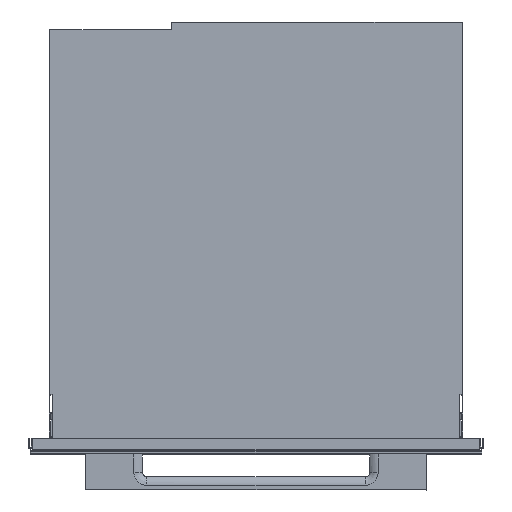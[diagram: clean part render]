
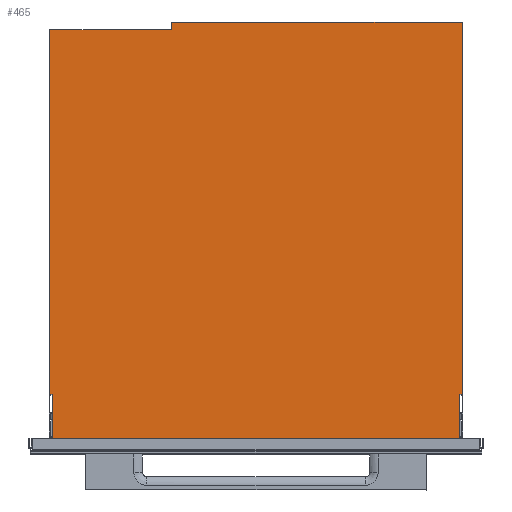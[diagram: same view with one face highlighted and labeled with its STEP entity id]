
A CAD part, top view. The second image highlights one B-rep face of the part: STEP entity #465.
In plain terms, the highlighted planar face has unit normal (0, 0, 1).
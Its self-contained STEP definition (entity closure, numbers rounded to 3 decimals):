
#465=ADVANCED_FACE('',(#797),#5106,.T.);
#797=FACE_OUTER_BOUND('',#1136,.T.);
#1136=EDGE_LOOP('',(#2631,#2632,#2633,#2634,#2635,#2636,#2637,#2638,#2639,
#2640));
#2631=ORIENTED_EDGE('',*,*,#3471,.T.);
#2632=ORIENTED_EDGE('',*,*,#3472,.T.);
#2633=ORIENTED_EDGE('',*,*,#3473,.T.);
#2634=ORIENTED_EDGE('',*,*,#3474,.T.);
#2635=ORIENTED_EDGE('',*,*,#3475,.T.);
#2636=ORIENTED_EDGE('',*,*,#3476,.T.);
#2637=ORIENTED_EDGE('',*,*,#3477,.T.);
#2638=ORIENTED_EDGE('',*,*,#3478,.T.);
#2639=ORIENTED_EDGE('',*,*,#3479,.T.);
#2640=ORIENTED_EDGE('',*,*,#3480,.T.);
#3471=EDGE_CURVE('',#4759,#4760,#4260,.T.);
#3472=EDGE_CURVE('',#4760,#4761,#4261,.T.);
#3473=EDGE_CURVE('',#4761,#4762,#4262,.T.);
#3474=EDGE_CURVE('',#4762,#4763,#4263,.T.);
#3475=EDGE_CURVE('',#4763,#4764,#4264,.T.);
#3476=EDGE_CURVE('',#4764,#4765,#4265,.T.);
#3477=EDGE_CURVE('',#4765,#4766,#4266,.T.);
#3478=EDGE_CURVE('',#4766,#4767,#4267,.T.);
#3479=EDGE_CURVE('',#4767,#4768,#4268,.T.);
#3480=EDGE_CURVE('',#4768,#4759,#4269,.T.);
#4260=B_SPLINE_CURVE_WITH_KNOTS('',1,(#13507,#13508),.UNSPECIFIED.,.F.,
 .F.,(2,2),(-160.,0.),.UNSPECIFIED.);
#4261=B_SPLINE_CURVE_WITH_KNOTS('',1,(#13509,#13510),.UNSPECIFIED.,.F.,
 .F.,(2,2),(-479.5,0.),.UNSPECIFIED.);
#4262=B_SPLINE_CURVE_WITH_KNOTS('',1,(#13511,#13512),.UNSPECIFIED.,.F.,
 .F.,(2,2),(-3.,0.),.UNSPECIFIED.);
#4263=B_SPLINE_CURVE_WITH_KNOTS('',1,(#13513,#13514),.UNSPECIFIED.,.F.,
 .F.,(2,2),(0.,58.),.UNSPECIFIED.);
#4264=B_SPLINE_CURVE_WITH_KNOTS('',1,(#13515,#13516),.UNSPECIFIED.,.F.,
 .F.,(2,2),(0.,536.),.UNSPECIFIED.);
#4265=B_SPLINE_CURVE_WITH_KNOTS('',1,(#13517,#13518),.UNSPECIFIED.,.F.,
 .F.,(2,2),(-58.,0.),.UNSPECIFIED.);
#4266=B_SPLINE_CURVE_WITH_KNOTS('',1,(#13519,#13520),.UNSPECIFIED.,.F.,
 .F.,(2,2),(0.,3.),.UNSPECIFIED.);
#4267=B_SPLINE_CURVE_WITH_KNOTS('',1,(#13521,#13522),.UNSPECIFIED.,.F.,
 .F.,(2,2),(0.,489.5),.UNSPECIFIED.);
#4268=B_SPLINE_CURVE_WITH_KNOTS('',1,(#13523,#13524),.UNSPECIFIED.,.F.,
 .F.,(2,2),(-382.,0.),.UNSPECIFIED.);
#4269=B_SPLINE_CURVE_WITH_KNOTS('',1,(#13525,#13526),.UNSPECIFIED.,.F.,
 .F.,(2,2),(-10.,0.),.UNSPECIFIED.);
#4759=VERTEX_POINT('',#13473);
#4760=VERTEX_POINT('',#13474);
#4761=VERTEX_POINT('',#13475);
#4762=VERTEX_POINT('',#13476);
#4763=VERTEX_POINT('',#13477);
#4764=VERTEX_POINT('',#13478);
#4765=VERTEX_POINT('',#13479);
#4766=VERTEX_POINT('',#13480);
#4767=VERTEX_POINT('',#13481);
#4768=VERTEX_POINT('',#13482);
#5106=PLANE('',#5298);
#5298=AXIS2_PLACEMENT_3D('',#13454,#5473,$);
#5473=DIRECTION('',(0.,0.,1.));
#13454=CARTESIAN_POINT('',(-325.212,-34.762,443.7));
#13473=CARTESIAN_POINT('',(-111.,557.5,443.7));
#13474=CARTESIAN_POINT('',(-271.,557.5,443.7));
#13475=CARTESIAN_POINT('',(-271.,78.,443.7));
#13476=CARTESIAN_POINT('',(-268.,78.,443.7));
#13477=CARTESIAN_POINT('',(-268.,20.,443.7));
#13478=CARTESIAN_POINT('',(268.,20.,443.7));
#13479=CARTESIAN_POINT('',(268.,78.,443.7));
#13480=CARTESIAN_POINT('',(271.,78.,443.7));
#13481=CARTESIAN_POINT('',(271.,567.5,443.7));
#13482=CARTESIAN_POINT('',(-111.,567.5,443.7));
#13507=CARTESIAN_POINT('',(-111.,557.5,443.7));
#13508=CARTESIAN_POINT('',(-271.,557.5,443.7));
#13509=CARTESIAN_POINT('',(-271.,557.5,443.7));
#13510=CARTESIAN_POINT('',(-271.,78.,443.7));
#13511=CARTESIAN_POINT('',(-271.,78.,443.7));
#13512=CARTESIAN_POINT('',(-268.,78.,443.7));
#13513=CARTESIAN_POINT('',(-268.,78.,443.7));
#13514=CARTESIAN_POINT('',(-268.,20.,443.7));
#13515=CARTESIAN_POINT('',(-268.,20.,443.7));
#13516=CARTESIAN_POINT('',(268.,20.,443.7));
#13517=CARTESIAN_POINT('',(268.,20.,443.7));
#13518=CARTESIAN_POINT('',(268.,78.,443.7));
#13519=CARTESIAN_POINT('',(268.,78.,443.7));
#13520=CARTESIAN_POINT('',(271.,78.,443.7));
#13521=CARTESIAN_POINT('',(271.,78.,443.7));
#13522=CARTESIAN_POINT('',(271.,567.5,443.7));
#13523=CARTESIAN_POINT('',(271.,567.5,443.7));
#13524=CARTESIAN_POINT('',(-111.,567.5,443.7));
#13525=CARTESIAN_POINT('',(-111.,567.5,443.7));
#13526=CARTESIAN_POINT('',(-111.,557.5,443.7));
